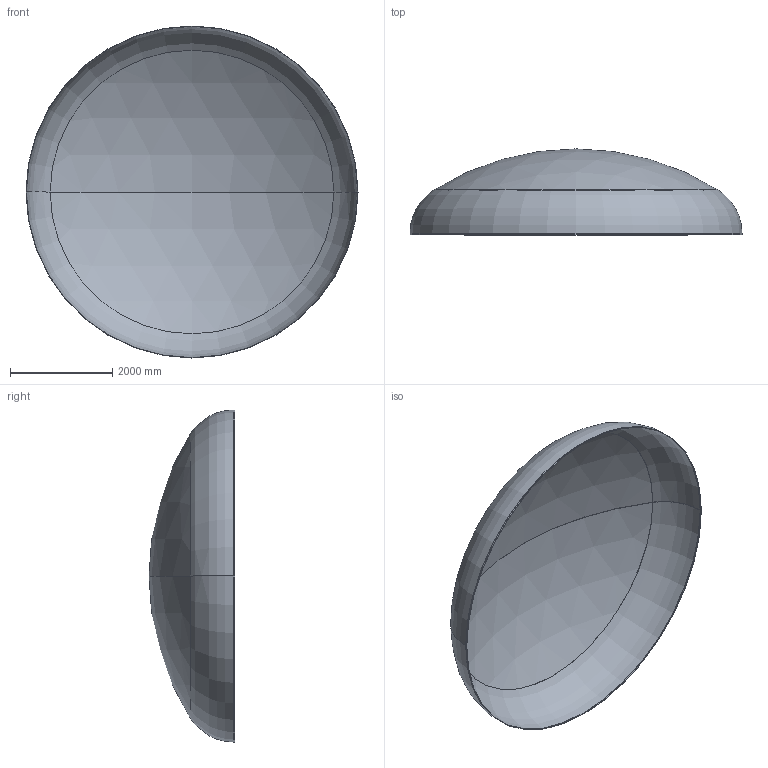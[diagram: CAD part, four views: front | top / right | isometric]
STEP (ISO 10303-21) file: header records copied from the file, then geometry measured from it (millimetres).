
FILE_DESCRIPTION (( 'STEP AP203' ), '1' );
FILE_NAME ('DIN 28013 Korbbogenform_-_Boden DIN 28013 - 6500 x 25 - I - s=7.step', '2016-07-04T10:39:35', ( '' ), ( '' ), 'SwSTEP 2.0', 'SolidWorks 2013', '' );
FILE_SCHEMA (( 'CONFIG_CONTROL_DESIGN' ));
Length unit declared in the file: millimetre
Products named in the file (1): DIN 28013 Korbbogenform_-_Boden DIN 28013 - 6500 x 25 - I - s=7
Bounding box: 6500 x 1681.09 x 6500 mm (x, y, z)
Volume: 324792877.2 mm3; surface area: 92940817.2 mm2
Topology: 1 solids, 1 shells, 13 faces, 24 edges, 14 vertices
Faces by surface type: torus 4, cylinder 4, sphere 4, plane 1
Entity records: 407 total; most frequent: DIRECTION 72, CARTESIAN_POINT 52, ORIENTED_EDGE 48, AXIS2_PLACEMENT_3D 34, EDGE_CURVE 24, CIRCLE 20, EDGE_LOOP 14, VERTEX_POINT 14
